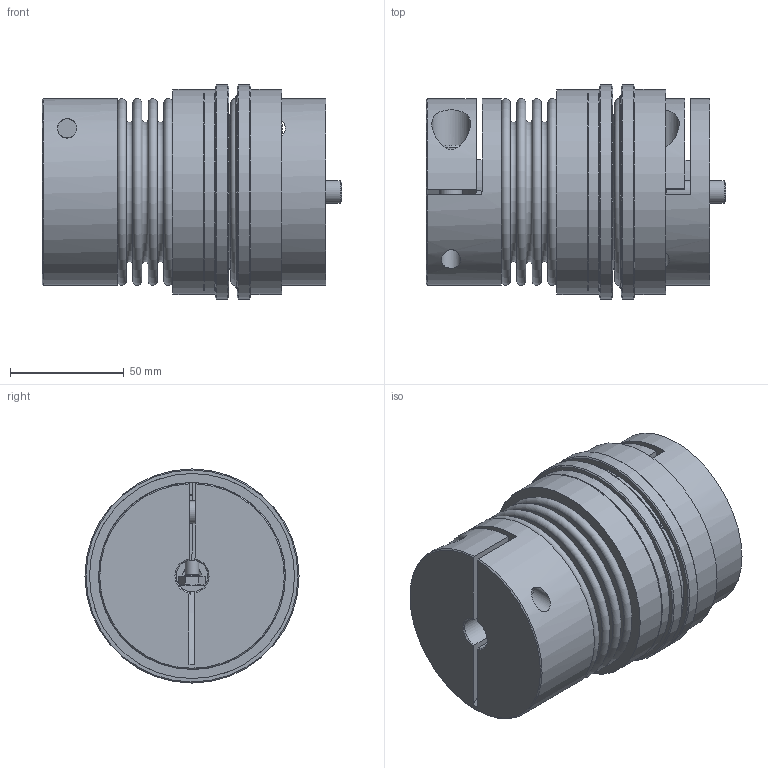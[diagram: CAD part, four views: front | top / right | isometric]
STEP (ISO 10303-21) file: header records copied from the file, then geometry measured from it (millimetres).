
FILE_DESCRIPTION( ( 'Unknown' ), '1' );
FILE_NAME( 'C:/Dokumente und Einstellungen/SKarpstein/Desktop/Korrigierte 3D Modelle/KBK-BKI-80-106.stp', 'Unknown', ( 'Unknown' ), ( 'Unknown' ), 'XStep 1.0', 'Unknown', ' ' );
FILE_SCHEMA( ( 'automotive_design' ) );
Length unit declared in the file: millimetre
Products named in the file (10): Assem1; KBK L-I-80 Grundkörper_0; Konusbuchse 80_0; Stellring 80; Druckring 80; din_en_24017_m6x25; Flansch BK150; KN80-150_Standard_4; Socket Head Cap Screw_DIN_DIN 912 M10 x 30 --- 30N_5; BK80-150_Standard_3
Bounding box: 131.6 x 94 x 94 mm (x, y, z)
Volume: 706436.1 mm3; surface area: 300669.3 mm2
Topology: 23 solids, 23 shells, 548 faces, 1164 edges, 753 vertices
Faces by surface type: plane 257, cylinder 126, cone 122, torus 43
Full cylindrical faces by diameter (mm): 3.242 x6, 4.917 x18, 5 x8, 5.2 x6, 6 x7, 6.6 x12, 8.5 x2, 8.8 x7, 10 x6, 14 x2, 16 x2, 17 x2, 30 x4, 37.5 x2, 40 x4, 41 x2, 48 x2, 52 x2, 59.5 x2, 62 x4, 70 x2, 70.7 x4, 71.9 x4, 82 x2, 85 x2, 87 x2, 90 x4, 94 x2
Entity records: 6228 total; most frequent: CARTESIAN_POINT 1438, DIRECTION 973, ORIENTED_EDGE 662, AXIS2_PLACEMENT_3D 443, EDGE_LOOP 400, EDGE_CURVE 331, FACE_OUTER_BOUND 294, VERTEX_POINT 270
